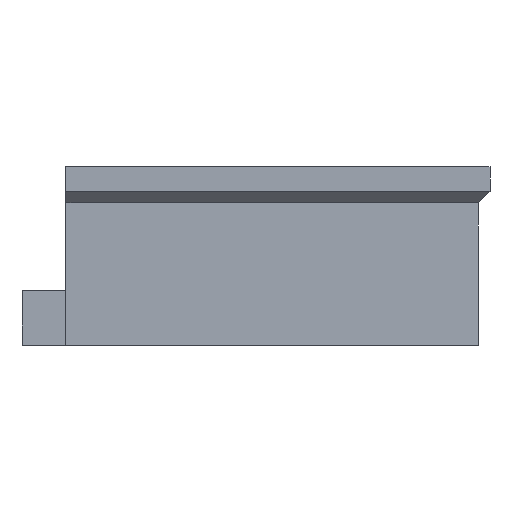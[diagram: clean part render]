
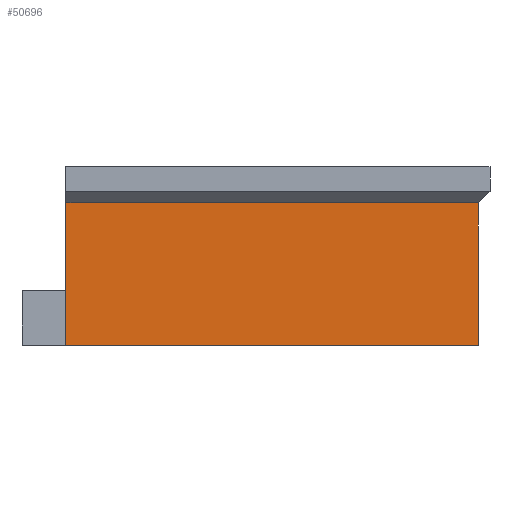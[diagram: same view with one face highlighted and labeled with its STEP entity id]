
A CAD part, front view. The second image highlights one B-rep face of the part: STEP entity #50696.
In plain terms, the highlighted planar face has unit normal (0, -1, 0).
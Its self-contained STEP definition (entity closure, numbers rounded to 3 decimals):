
#32 = PLANE('',#33);
#33 = AXIS2_PLACEMENT_3D('',#34,#35,#36);
#34 = CARTESIAN_POINT('',(117.,-200.,-1.));
#35 = DIRECTION('',(1.,0.,-0.));
#36 = DIRECTION('',(0.,0.,1.));
#225 = VERTEX_POINT('',#226);
#226 = CARTESIAN_POINT('',(117.,-176.,25.9));
#244 = B_SPLINE_SURFACE_WITH_KNOTS('',1,1,(
    (#245,#246)
    ,(#247,#248
    )),.UNSPECIFIED.,.F.,.F.,.F.,(2,2),(2,2),(0.,388.2),(0.,1.),
  .PIECEWISE_BEZIER_KNOTS.);
#245 = CARTESIAN_POINT('',(-192.,-176.,25.9));
#246 = CARTESIAN_POINT('',(-194.1,-178.1,28.));
#247 = CARTESIAN_POINT('',(192.,-176.,25.9));
#248 = CARTESIAN_POINT('',(194.1,-178.1,28.));
#258 = EDGE_CURVE('',#259,#225,#261,.T.);
#259 = VERTEX_POINT('',#260);
#260 = CARTESIAN_POINT('',(117.,-176.,0.));
#261 = SURFACE_CURVE('',#262,(#266,#273),.PCURVE_S1.);
#262 = LINE('',#263,#264);
#263 = CARTESIAN_POINT('',(117.,-176.,-0.5));
#264 = VECTOR('',#265,1.);
#265 = DIRECTION('',(0.,-0.,1.));
#266 = PCURVE('',#32,#267);
#267 = DEFINITIONAL_REPRESENTATION('',(#268),#272);
#268 = LINE('',#269,#270);
#269 = CARTESIAN_POINT('',(0.5,-24.));
#270 = VECTOR('',#271,1.);
#271 = DIRECTION('',(1.,0.));
#272 = ( GEOMETRIC_REPRESENTATION_CONTEXT(2) 
PARAMETRIC_REPRESENTATION_CONTEXT() REPRESENTATION_CONTEXT('2D SPACE',''
  ) );
#273 = PCURVE('',#274,#279);
#274 = PLANE('',#275);
#275 = AXIS2_PLACEMENT_3D('',#276,#277,#278);
#276 = CARTESIAN_POINT('',(-192.,-176.,0.));
#277 = DIRECTION('',(0.,1.,0.));
#278 = DIRECTION('',(1.,0.,0.));
#279 = DEFINITIONAL_REPRESENTATION('',(#280),#284);
#280 = LINE('',#281,#282);
#281 = CARTESIAN_POINT('',(309.,0.5));
#282 = VECTOR('',#283,1.);
#283 = DIRECTION('',(0.,-1.));
#284 = ( GEOMETRIC_REPRESENTATION_CONTEXT(2) 
PARAMETRIC_REPRESENTATION_CONTEXT() REPRESENTATION_CONTEXT('2D SPACE',''
  ) );
#302 = PLANE('',#303);
#303 = AXIS2_PLACEMENT_3D('',#304,#305,#306);
#304 = CARTESIAN_POINT('',(0.,-2.673,0.));
#305 = DIRECTION('',(0.,0.,1.));
#306 = DIRECTION('',(1.,0.,-0.));
#47217 = PLANE('',#47218);
#47218 = AXIS2_PLACEMENT_3D('',#47219,#47220,#47221);
#47219 = CARTESIAN_POINT('',(192.,-176.,0.));
#47220 = DIRECTION('',(-1.,0.,0.));
#47221 = DIRECTION('',(0.,1.,0.));
#47625 = VERTEX_POINT('',#47626);
#47626 = CARTESIAN_POINT('',(192.,-176.,0.));
#47647 = EDGE_CURVE('',#47625,#47648,#47650,.T.);
#47648 = VERTEX_POINT('',#47649);
#47649 = CARTESIAN_POINT('',(192.,-176.,25.9));
#47650 = SURFACE_CURVE('',#47651,(#47655,#47662),.PCURVE_S1.);
#47651 = LINE('',#47652,#47653);
#47652 = CARTESIAN_POINT('',(192.,-176.,0.));
#47653 = VECTOR('',#47654,1.);
#47654 = DIRECTION('',(0.,0.,1.));
#47655 = PCURVE('',#47217,#47656);
#47656 = DEFINITIONAL_REPRESENTATION('',(#47657),#47661);
#47657 = LINE('',#47658,#47659);
#47658 = CARTESIAN_POINT('',(0.,0.));
#47659 = VECTOR('',#47660,1.);
#47660 = DIRECTION('',(0.,-1.));
#47661 = ( GEOMETRIC_REPRESENTATION_CONTEXT(2) 
PARAMETRIC_REPRESENTATION_CONTEXT() REPRESENTATION_CONTEXT('2D SPACE',''
  ) );
#47662 = PCURVE('',#274,#47663);
#47663 = DEFINITIONAL_REPRESENTATION('',(#47664),#47668);
#47664 = LINE('',#47665,#47666);
#47665 = CARTESIAN_POINT('',(384.,0.));
#47666 = VECTOR('',#47667,1.);
#47667 = DIRECTION('',(0.,-1.));
#47668 = ( GEOMETRIC_REPRESENTATION_CONTEXT(2) 
PARAMETRIC_REPRESENTATION_CONTEXT() REPRESENTATION_CONTEXT('2D SPACE',''
  ) );
#50670 = EDGE_CURVE('',#259,#47625,#50671,.T.);
#50671 = SURFACE_CURVE('',#50672,(#50676,#50683),.PCURVE_S1.);
#50672 = LINE('',#50673,#50674);
#50673 = CARTESIAN_POINT('',(-192.,-176.,0.));
#50674 = VECTOR('',#50675,1.);
#50675 = DIRECTION('',(1.,0.,0.));
#50676 = PCURVE('',#302,#50677);
#50677 = DEFINITIONAL_REPRESENTATION('',(#50678),#50682);
#50678 = LINE('',#50679,#50680);
#50679 = CARTESIAN_POINT('',(-192.,-173.327));
#50680 = VECTOR('',#50681,1.);
#50681 = DIRECTION('',(1.,0.));
#50682 = ( GEOMETRIC_REPRESENTATION_CONTEXT(2) 
PARAMETRIC_REPRESENTATION_CONTEXT() REPRESENTATION_CONTEXT('2D SPACE',''
  ) );
#50683 = PCURVE('',#274,#50684);
#50684 = DEFINITIONAL_REPRESENTATION('',(#50685),#50689);
#50685 = LINE('',#50686,#50687);
#50686 = CARTESIAN_POINT('',(0.,0.));
#50687 = VECTOR('',#50688,1.);
#50688 = DIRECTION('',(1.,0.));
#50689 = ( GEOMETRIC_REPRESENTATION_CONTEXT(2) 
PARAMETRIC_REPRESENTATION_CONTEXT() REPRESENTATION_CONTEXT('2D SPACE',''
  ) );
#50696 = ADVANCED_FACE('',(#50697),#274,.F.);
#50697 = FACE_BOUND('',#50698,.F.);
#50698 = EDGE_LOOP('',(#50699,#50700,#50701,#50721));
#50699 = ORIENTED_EDGE('',*,*,#50670,.F.);
#50700 = ORIENTED_EDGE('',*,*,#258,.T.);
#50701 = ORIENTED_EDGE('',*,*,#50702,.T.);
#50702 = EDGE_CURVE('',#225,#47648,#50703,.T.);
#50703 = SURFACE_CURVE('',#50704,(#50708,#50715),.PCURVE_S1.);
#50704 = LINE('',#50705,#50706);
#50705 = CARTESIAN_POINT('',(-192.,-176.,25.9));
#50706 = VECTOR('',#50707,1.);
#50707 = DIRECTION('',(1.,0.,0.));
#50708 = PCURVE('',#274,#50709);
#50709 = DEFINITIONAL_REPRESENTATION('',(#50710),#50714);
#50710 = LINE('',#50711,#50712);
#50711 = CARTESIAN_POINT('',(0.,-25.9));
#50712 = VECTOR('',#50713,1.);
#50713 = DIRECTION('',(1.,0.));
#50714 = ( GEOMETRIC_REPRESENTATION_CONTEXT(2) 
PARAMETRIC_REPRESENTATION_CONTEXT() REPRESENTATION_CONTEXT('2D SPACE',''
  ) );
#50715 = PCURVE('',#244,#50716);
#50716 = DEFINITIONAL_REPRESENTATION('',(#50717),#50720);
#50717 = B_SPLINE_CURVE_WITH_KNOTS('',1,(#50718,#50719),.UNSPECIFIED.,
  .F.,.F.,(2,2),(0.,384.),.PIECEWISE_BEZIER_KNOTS.);
#50718 = CARTESIAN_POINT('',(0.,0.));
#50719 = CARTESIAN_POINT('',(388.2,0.));
#50720 = ( GEOMETRIC_REPRESENTATION_CONTEXT(2) 
PARAMETRIC_REPRESENTATION_CONTEXT() REPRESENTATION_CONTEXT('2D SPACE',''
  ) );
#50721 = ORIENTED_EDGE('',*,*,#47647,.F.);
